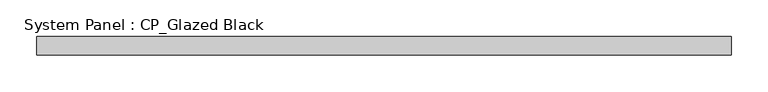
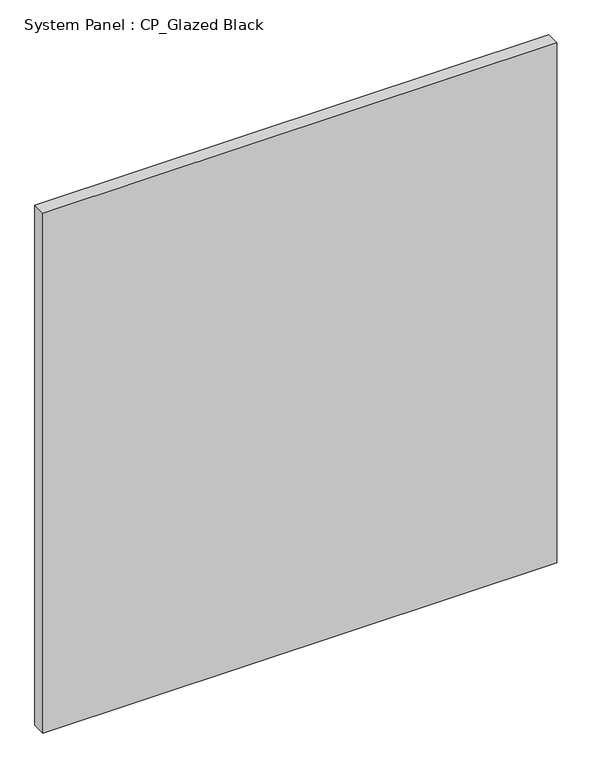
"""IFC4 building model written with IfcOpenShell, lengths in millimetres: plate geometry, System Panel : CP_Glazed Black."""

from ifc_helpers import new_model, si_unit, origin, origin_with_axes, place, context, project, spatial, polyline, outline, extrude, source, transform, mapped, element, save


def system_panel_cp_glazed_black_5af5919e(model_context):
    return source(origin(), model_context, "Body", "SweptSolid", [
        extrude(outline(polyline([(473.075, 19.05), (-473.075, 19.05), (-473.075, 44.45), (473.075, 44.45), (473.075, 19.05)])), origin_with_axes(), (0.0, 0.0, 1.0), 1012.03125),
    ])


if __name__ == "__main__":
    model = new_model("IFC4")
    model_context = context("Model", 3, world=origin())
    ifc_project = project(units=[si_unit("LENGTHUNIT", "METRE", prefix="MILLI")], contexts=[model_context])
    site = spatial("IfcSite", under=ifc_project)
    building = spatial("IfcBuilding", under=site)
    placement = place(None, origin())
    system_panel_cp_glazed_black_shape = system_panel_cp_glazed_black_5af5919e(model_context)
    element("IfcPlate", 1, ObjectType="System Panel : CP_Glazed Black", at=placement, inside=building, context=model_context, shape_type="MappedRepresentation", body=[
        mapped(system_panel_cp_glazed_black_shape, transform((0.0, 0.0, 0.0), x_axis=(1.0, 0.0, 0.0), y_axis=(0.0, 1.0, 0.0), z_axis=(0.0, 0.0, 1.0))),
    ])
    save(model, "model.ifc")
